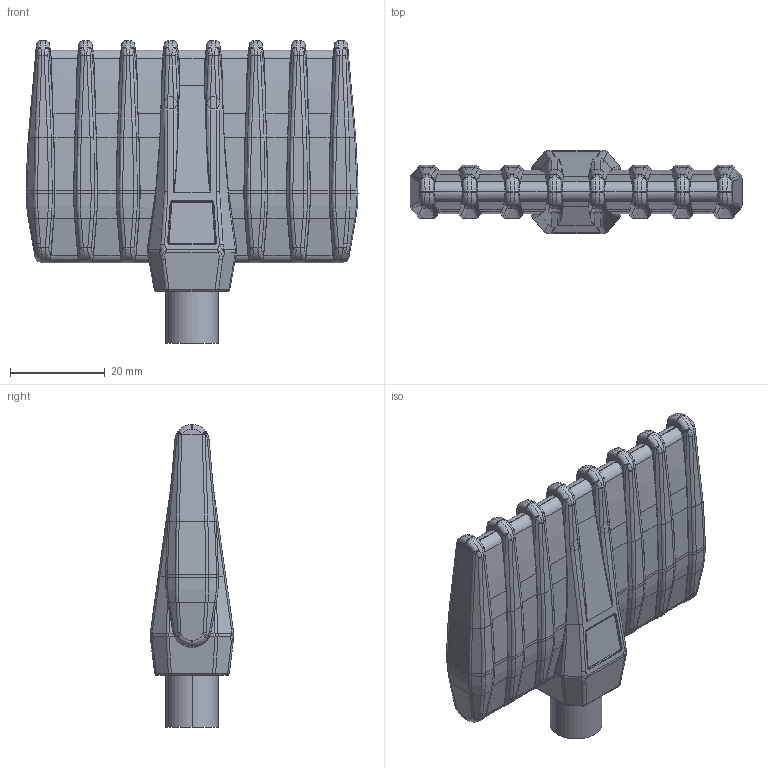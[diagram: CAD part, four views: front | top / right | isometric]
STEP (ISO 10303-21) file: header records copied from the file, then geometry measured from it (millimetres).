
FILE_DESCRIPTION (( 'STEP AP214' ), '1' );
FILE_NAME ('SILVENT_9005W-S.STEP', '2024-10-17T08:14:10', ( '' ), ( '' ), 'SwSTEP 2.0', 'SolidWorks 2021', '' );
FILE_SCHEMA (( 'AUTOMOTIVE_DESIGN' ));
Length unit declared in the file: millimetre
Products named in the file (1): SILVENT_9005W-S
Bounding box: 70.21 x 17.73 x 64 mm (x, y, z)
Volume: 30064 mm3; surface area: 9086 mm2
Topology: 1 solids, 1 shells, 1252 faces, 2841 edges, 1558 vertices
Faces by surface type: bspline 506, cylinder 483, plane 231, sphere 32
Entity records: 53421 total; most frequent: CARTESIAN_POINT 16592, ORIENTED_EDGE 5610, DIRECTION 3991, EDGE_CURVE 2805, VERTEX_POINT 1558, AXIS2_PLACEMENT_3D 1515, EDGE_LOOP 1255, UNCERTAINTY_MEASURE_WITH_UNIT 1255
